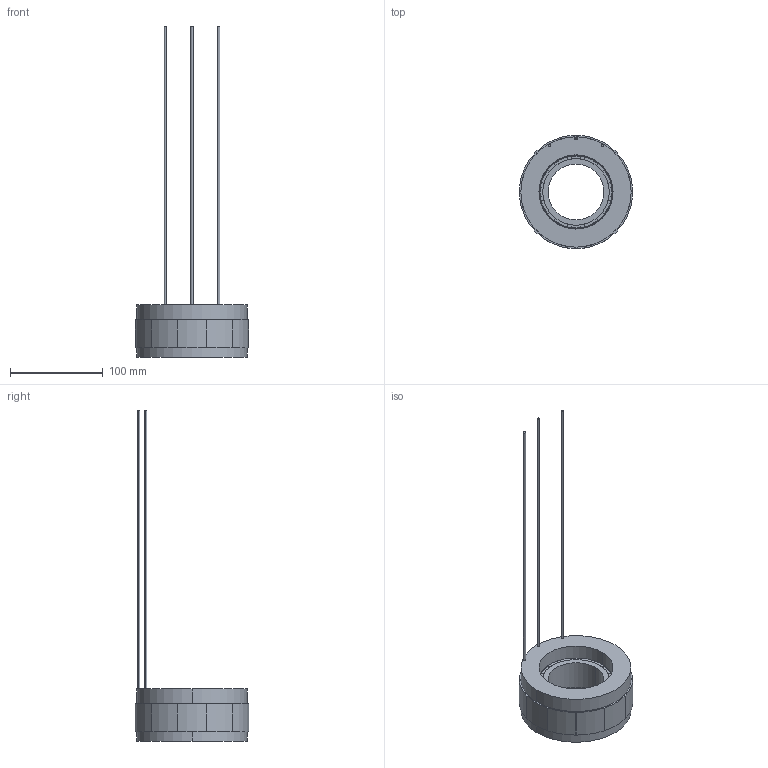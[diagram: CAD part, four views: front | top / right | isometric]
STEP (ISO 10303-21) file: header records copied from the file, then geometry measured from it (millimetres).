
FILE_DESCRIPTION (( 'STEP AP203' ), '1' );
FILE_NAME ('307080240SS(FMC12330-0010-2060N-5DK00)-V1.2.STEP', '2022-12-08T11:11:34', ( 'muse' ), ( 'muse' ), 'SwSTEP 2.0', 'SolidWorks 2022', '' );
FILE_SCHEMA (( 'CONFIG_CONTROL_DESIGN' ));
Length unit declared in the file: millimetre
Products named in the file (5): 转子铁芯; 130线包; 磁钢; 130L30-12Z(B35W300); 307080240SS(FMC12330-0010-2060N-5DK00)-V1.2
Assembly tree (30 placements, depth 2):
  307080240SS(FMC12330-0010-2060N-5DK00)-V1.2
    130L30-12Z(B35W300)  x12
    130线包
    转子铁芯
    磁钢  x16
Bounding box: 122.03 x 122.03 x 356.5 mm (x, y, z)
Volume: 391276.6 mm3; surface area: 142195 mm2
Topology: 34 solids, 34 shells, 414 faces, 1038 edges, 692 vertices
Faces by surface type: plane 292, cylinder 122
Entity records: 3027 total; most frequent: DIRECTION 370, CARTESIAN_POINT 313, ORIENTED_EDGE 264, AXIS2_PLACEMENT_3D 145, EDGE_CURVE 132, VERTEX_POINT 88, COORDINATED_UNIVERSAL_TIME_OFFSET 85, LOCAL_TIME 85
